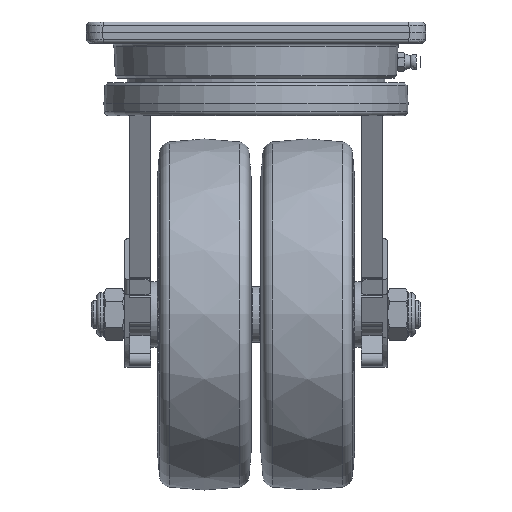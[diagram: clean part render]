
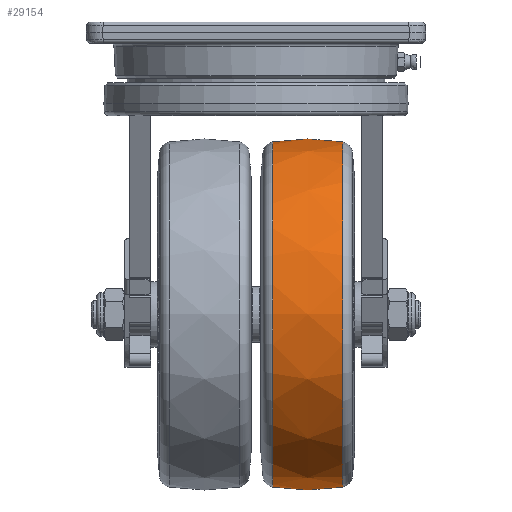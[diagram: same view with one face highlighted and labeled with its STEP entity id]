
A CAD part, left-side view. The second image highlights one B-rep face of the part: STEP entity #29154.
In plain terms, the highlighted free-form (B-spline) face has degree [2, 2] with [3, 9] control points.
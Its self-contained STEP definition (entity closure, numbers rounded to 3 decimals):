
#14=(
BOUNDED_SURFACE()
B_SPLINE_SURFACE(2,2,((#49331,#49332,#49333,#49334,#49335,#49336,#49337,
#49338,#49339),(#49340,#49341,#49342,#49343,#49344,#49345,#49346,#49347,
#49348),(#49349,#49350,#49351,#49352,#49353,#49354,#49355,#49356,#49357)),
 .UNSPECIFIED.,.F.,.T.,.F.)
B_SPLINE_SURFACE_WITH_KNOTS((3,3),(3,2,2,2,3),(-0.167,0.167),
(-3.142,-1.571,0.,1.571,3.142),
 .UNSPECIFIED.)
GEOMETRIC_REPRESENTATION_ITEM()
RATIONAL_B_SPLINE_SURFACE(((1.,0.707,1.,0.707,1.,
0.707,1.,0.707,1.),(0.986,0.697,
0.986,0.697,0.986,0.697,
0.986,0.697,0.986),(1.,0.707,
1.,0.707,1.,0.707,1.,0.707,1.)))
REPRESENTATION_ITEM('')
SURFACE()
);
#6085=FACE_OUTER_BOUND('',#7735,.T.);
#7735=EDGE_LOOP('',(#26004,#26005,#26006,#26007,#26008,#26009));
#12490=CIRCLE('',#30674,73.749);
#12491=CIRCLE('',#30675,73.749);
#12493=CIRCLE('',#30677,73.749);
#12494=CIRCLE('',#30678,73.749);
#12495=CIRCLE('',#30679,90.);
#14726=VERTEX_POINT('',#49326);
#14727=VERTEX_POINT('',#49327);
#14728=VERTEX_POINT('',#49358);
#14729=VERTEX_POINT('',#49359);
#18595=EDGE_CURVE('',#14726,#14727,#12490,.T.);
#18596=EDGE_CURVE('',#14727,#14726,#12491,.T.);
#18598=EDGE_CURVE('',#14728,#14729,#12493,.T.);
#18599=EDGE_CURVE('',#14729,#14728,#12494,.T.);
#18600=EDGE_CURVE('',#14729,#14727,#12495,.T.);
#26004=ORIENTED_EDGE('',*,*,#18598,.F.);
#26005=ORIENTED_EDGE('',*,*,#18599,.F.);
#26006=ORIENTED_EDGE('',*,*,#18600,.T.);
#26007=ORIENTED_EDGE('',*,*,#18596,.T.);
#26008=ORIENTED_EDGE('',*,*,#18595,.T.);
#26009=ORIENTED_EDGE('',*,*,#18600,.F.);
#29154=ADVANCED_FACE('',(#6085),#14,.F.);
#30674=AXIS2_PLACEMENT_3D('',#49328,#35020,#35021);
#30675=AXIS2_PLACEMENT_3D('',#49329,#35022,#35023);
#30677=AXIS2_PLACEMENT_3D('',#49360,#35026,#35027);
#30678=AXIS2_PLACEMENT_3D('',#49361,#35028,#35029);
#30679=AXIS2_PLACEMENT_3D('',#49362,#35030,#35031);
#35020=DIRECTION('center_axis',(0.,1.,0.));
#35021=DIRECTION('ref_axis',(-1.,0.,0.));
#35022=DIRECTION('center_axis',(0.,1.,0.));
#35023=DIRECTION('ref_axis',(-1.,0.,0.));
#35026=DIRECTION('center_axis',(0.,1.,0.));
#35027=DIRECTION('ref_axis',(-1.,0.,0.));
#35028=DIRECTION('center_axis',(0.,1.,0.));
#35029=DIRECTION('ref_axis',(-1.,0.,0.));
#35030=DIRECTION('center_axis',(0.,0.,
-1.));
#35031=DIRECTION('ref_axis',(1.,0.,0.));
#49326=CARTESIAN_POINT('',(-38.749,-37.053,-125.));
#49327=CARTESIAN_POINT('',(108.749,-37.053,-125.));
#49328=CARTESIAN_POINT('Origin',(35.,-37.053,-125.));
#49329=CARTESIAN_POINT('Origin',(35.,-37.053,-125.));
#49331=CARTESIAN_POINT('Ctrl Pts',(108.749,-37.053,-125.));
#49332=CARTESIAN_POINT('Ctrl Pts',(108.749,-37.053,-198.749));
#49333=CARTESIAN_POINT('Ctrl Pts',(35.,-37.053,-198.749));
#49334=CARTESIAN_POINT('Ctrl Pts',(-38.749,-37.053,
-198.749));
#49335=CARTESIAN_POINT('Ctrl Pts',(-38.749,-37.053,
-125.));
#49336=CARTESIAN_POINT('Ctrl Pts',(-38.749,-37.053,
-51.251));
#49337=CARTESIAN_POINT('Ctrl Pts',(35.,-37.053,-51.251));
#49338=CARTESIAN_POINT('Ctrl Pts',(108.749,-37.053,-51.251));
#49339=CARTESIAN_POINT('Ctrl Pts',(108.749,-37.053,-125.));
#49340=CARTESIAN_POINT('Ctrl Pts',(111.268,-22.1,-125.));
#49341=CARTESIAN_POINT('Ctrl Pts',(111.268,-22.1,-201.268));
#49342=CARTESIAN_POINT('Ctrl Pts',(35.,-22.1,-201.268));
#49343=CARTESIAN_POINT('Ctrl Pts',(-41.268,-22.1,
-201.268));
#49344=CARTESIAN_POINT('Ctrl Pts',(-41.268,-22.1,-125.));
#49345=CARTESIAN_POINT('Ctrl Pts',(-41.268,-22.1,
-48.732));
#49346=CARTESIAN_POINT('Ctrl Pts',(35.,-22.1,-48.732));
#49347=CARTESIAN_POINT('Ctrl Pts',(111.268,-22.1,-48.732));
#49348=CARTESIAN_POINT('Ctrl Pts',(111.268,-22.1,-125.));
#49349=CARTESIAN_POINT('Ctrl Pts',(108.749,-7.147,-125.));
#49350=CARTESIAN_POINT('Ctrl Pts',(108.749,-7.147,-198.749));
#49351=CARTESIAN_POINT('Ctrl Pts',(35.,-7.147,-198.749));
#49352=CARTESIAN_POINT('Ctrl Pts',(-38.749,-7.147,
-198.749));
#49353=CARTESIAN_POINT('Ctrl Pts',(-38.749,-7.147,
-125.));
#49354=CARTESIAN_POINT('Ctrl Pts',(-38.749,-7.147,
-51.251));
#49355=CARTESIAN_POINT('Ctrl Pts',(35.,-7.147,-51.251));
#49356=CARTESIAN_POINT('Ctrl Pts',(108.749,-7.147,-51.251));
#49357=CARTESIAN_POINT('Ctrl Pts',(108.749,-7.147,-125.));
#49358=CARTESIAN_POINT('',(-38.749,-7.147,-125.));
#49359=CARTESIAN_POINT('',(108.749,-7.147,-125.));
#49360=CARTESIAN_POINT('Origin',(35.,-7.147,-125.));
#49361=CARTESIAN_POINT('Origin',(35.,-7.147,-125.));
#49362=CARTESIAN_POINT('Origin',(20.,-22.1,-125.));
